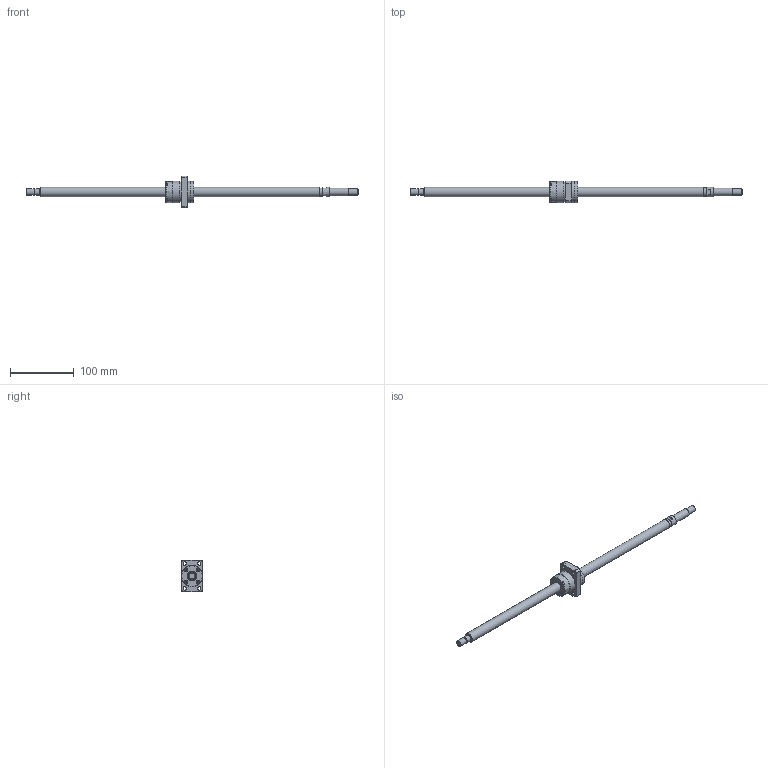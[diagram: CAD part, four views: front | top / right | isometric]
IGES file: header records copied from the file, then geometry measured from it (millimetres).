
Start section: Data from Parasolid IGES Translator 26.0.171, Copyright(c) 2006 Siemens PLM Software. All Rights Reserved.
Global section: file name: BNK1510-5.6G0+521LC5Y(241.50).igs; native system: By Siemens PLM Incorporated; preprocessor: XPlus GENERIC/IGES 26.0.171; author: Noname; organization: Noname; date: 20240709.092255; units: millimetre
Bounding box: 521 x 34 x 50 mm (x, y, z)
Surface area: 35840.2 mm2 (no closed solid volume)
Topology: 0 solids, 0 shells, 140 faces, 657 edges, 601 vertices
Faces by surface type: extrusion 76, revolution 64
